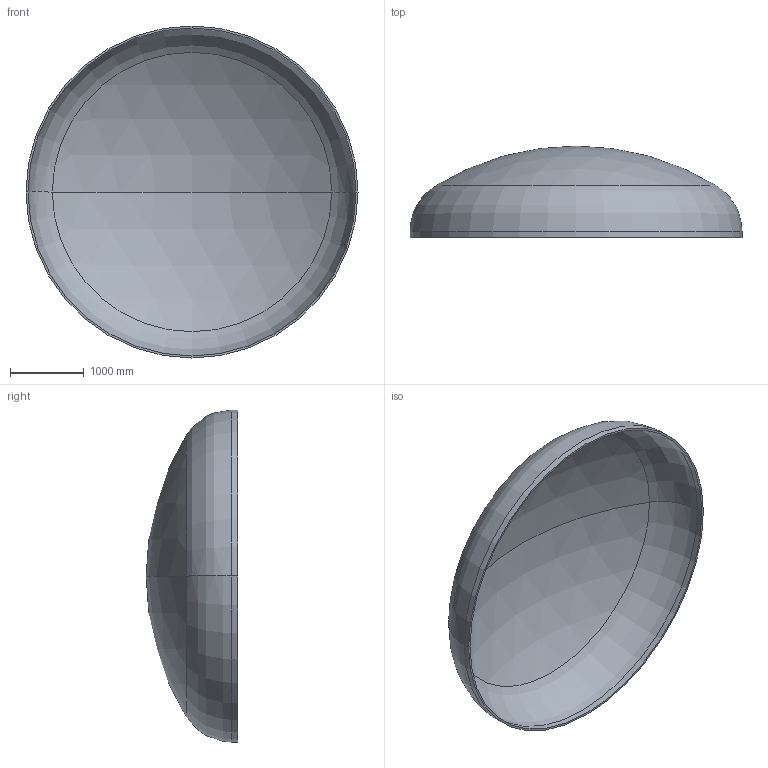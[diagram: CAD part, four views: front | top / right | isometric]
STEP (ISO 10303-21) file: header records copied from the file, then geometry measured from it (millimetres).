
FILE_DESCRIPTION (( 'STEP AP203' ), '1' );
FILE_NAME ('DIN 28013 Korbbogenform_-_Boden DIN 28013 - 4500 x 85 - I - s=27.step', '2016-07-01T23:14:17', ( '' ), ( '' ), 'SwSTEP 2.0', 'SolidWorks 2013', '' );
FILE_SCHEMA (( 'CONFIG_CONTROL_DESIGN' ));
Length unit declared in the file: millimetre
Products named in the file (1): DIN 28013 Korbbogenform_-_Boden DIN 28013 - 4500 x 85 - I - s=27
Bounding box: 4500 x 1241.32 x 4500 mm (x, y, z)
Volume: 622632079.5 mm3; surface area: 46501816.9 mm2
Topology: 1 solids, 1 shells, 13 faces, 24 edges, 14 vertices
Faces by surface type: torus 4, cylinder 4, sphere 4, plane 1
Entity records: 407 total; most frequent: DIRECTION 72, CARTESIAN_POINT 52, ORIENTED_EDGE 48, AXIS2_PLACEMENT_3D 34, EDGE_CURVE 24, CIRCLE 20, VERTEX_POINT 14, EDGE_LOOP 14
